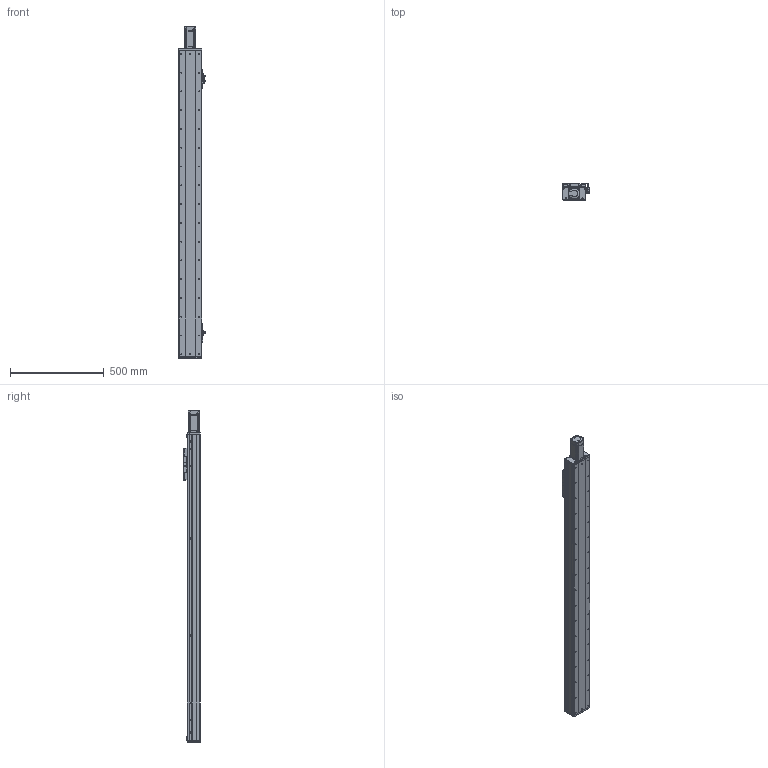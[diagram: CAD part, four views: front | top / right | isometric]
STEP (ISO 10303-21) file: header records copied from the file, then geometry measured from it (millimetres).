
FILE_DESCRIPTION (( 'STEP AP203' ), '1' );
FILE_NAME ('RY120F-L2010-1000-MK.SLDASM_1350.step', '2021-03-02T06:06:18', ( '盈信电脑' ), ( '东莞市道滘镇水果街19号' ), 'SwSTEP 2.0', 'SolidWorks 2012', '' );
FILE_SCHEMA (( 'CONFIG_CONTROL_DESIGN' ));
Length unit declared in the file: millimetre
Products named in the file (23): 粣杶; MF95ZZ; RY120F-L2010-1000-MK.SLDASM_1350; RY120F-蚥薯蝶幗謫郪磁; RY120F-钢带滚轮轴(优力胶); 蚥薯蝶幗謫; 滅袉蝶18-17; FY120F詩湍揤踡輸; RY120F綴裔啣(臏璃ㄘ; 672嫖萇羲壽假蚾釱; 覜茼ん672; RY80俋离覜茼え; RY120F不锈钢防尘盖(优力胶）; 滅袉蝶18-24; RY120F眻蟀ヶ裔啣; RY120F-铝滑块上座（优力胶）; 侂狟400W侜督萇儂; 絳寢賑輸EGH15; 15; RY120F-1000-倰第裔啣_1350; RY120F-臏賑輸 20蹟譫; RY120F-1000-倰第菁釱_1350; RY120F滅鳥詩湍-1000-MK_1350
Assembly tree (34 placements, depth 3):
  RY120F-L2010-1000-MK.SLDASM_1350
    RY120F-1000-倰第菁釱_1350
    RY120F-1000-倰第裔啣_1350  x2
    RY120F滅鳥詩湍-1000-MK_1350
    RY120F-臏賑輸 20蹟譫
    絳寢賑輸EGH15  x2
    RY120F-铝滑块上座（优力胶）
    侂狟400W侜督萇儂
      15
    RY120F眻蟀ヶ裔啣
    RY120F不锈钢防尘盖(优力胶）
    滅袉蝶18-24
    RY120F綴裔啣(臏璃ㄘ
    覜茼ん672  x3
    672嫖萇羲壽假蚾釱  x2
    RY80俋离覜茼え
    FY120F詩湍揤踡輸  x2
    滅袉蝶18-17  x2
    RY120F-蚥薯蝶幗謫郪磁
      RY120F-钢带滚轮轴(优力胶)
      蚥薯蝶幗謫  x2
      MF95ZZ  x4
      粣杶  x2
Bounding box: 140.35 x 89 x 1768.5 mm (x, y, z)
Volume: 5108114.4 mm3; surface area: 1873443.6 mm2
Topology: 32 solids, 32 shells, 2349 faces, 6245 edges, 3989 vertices
Faces by surface type: cylinder 1108, plane 988, cone 235, bspline 18
Entity records: 62924 total; most frequent: CARTESIAN_POINT 11344, DIRECTION 10615, ORIENTED_EDGE 9842, EDGE_CURVE 4921, AXIS2_PLACEMENT_3D 3876, VERTEX_POINT 3221, VECTOR 2863, LINE 2863
